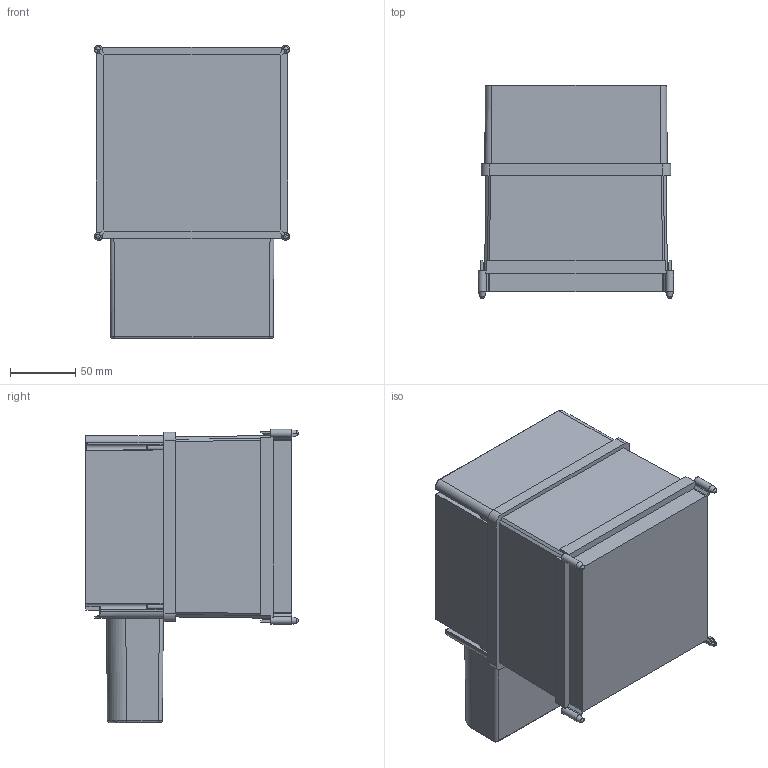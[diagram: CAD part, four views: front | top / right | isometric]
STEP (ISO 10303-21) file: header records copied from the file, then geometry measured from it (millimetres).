
FILE_DESCRIPTION(/* description */ (''),/* implementation_level */ '2;1');
FILE_NAME(/* name */ '116491.stp',/* time_stamp */ '2023-07-04T12:10:37+02:00',/* author */ ('JANAN'),/* organization */ (''),/* preprocessor_version */ 'ST-DEVELOPER v19.2',/* originating_system */ 'Autodesk Inventor 2023',/* authorisation */ '');
FILE_SCHEMA (('AUTOMOTIVE_DESIGN { 1 0 10303 214 3 1 1 }'));
Length unit declared in the file: millimetre
Products named in the file (1): tmp6784.tmp
Bounding box: 149.5 x 163.01 x 224.75 mm (x, y, z)
Volume: 1881083.3 mm3; surface area: 274518.5 mm2
Topology: 2 solids, 2 shells, 637 faces, 1657 edges, 996 vertices
Faces by surface type: plane 254, cylinder 194, bspline 95, torus 38, sphere 32, cone 24
Entity records: 24689 total; most frequent: CARTESIAN_POINT 8923, ORIENTED_EDGE 3246, DIRECTION 3078, EDGE_CURVE 1623, AXIS2_PLACEMENT_3D 1121, VERTEX_POINT 996, LINE 836, VECTOR 836
